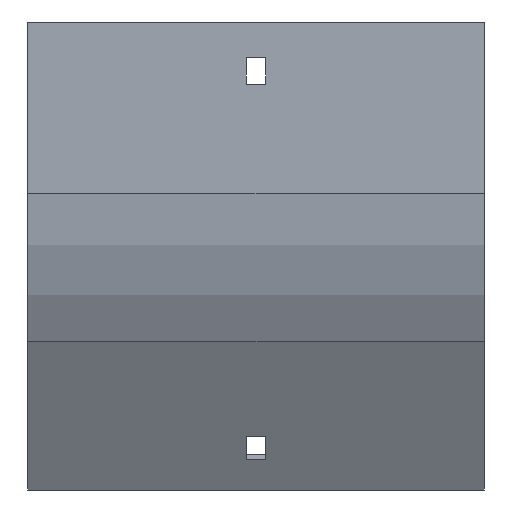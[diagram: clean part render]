
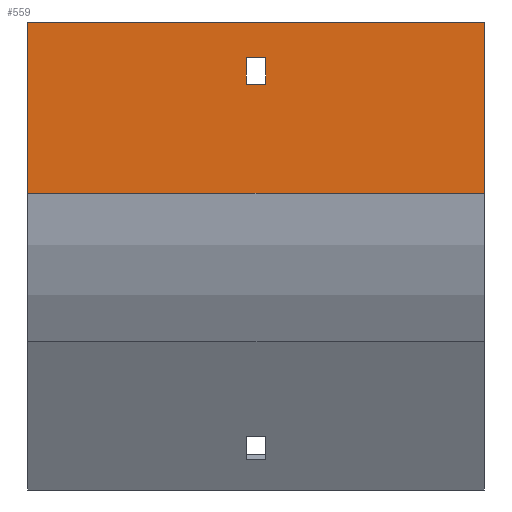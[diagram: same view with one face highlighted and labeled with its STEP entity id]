
A CAD part, front view. The second image highlights one B-rep face of the part: STEP entity #559.
In plain terms, the highlighted planar face has unit normal (0, -1, 0).
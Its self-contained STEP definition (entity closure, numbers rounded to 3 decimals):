
#3 = EDGE_LOOP ( 'NONE', ( #918, #1577, #1392, #1535 ) ) ;
#111 = VERTEX_POINT ( 'NONE', #968 ) ;
#135 = VERTEX_POINT ( 'NONE', #1739 ) ;
#150 = VECTOR ( 'NONE', #1410, 1000. ) ;
#162 = CARTESIAN_POINT ( 'NONE',  ( 77., -104., 0. ) ) ;
#226 = LINE ( 'NONE', #1437, #821 ) ;
#247 = CARTESIAN_POINT ( 'NONE',  ( 3.25, -104., -21. ) ) ;
#254 = CARTESIAN_POINT ( 'NONE',  ( -3.25, -104., -21. ) ) ;
#255 = DIRECTION ( 'NONE',  ( 0., 0., -1. ) ) ;
#281 = VERTEX_POINT ( 'NONE', #254 ) ;
#285 = CARTESIAN_POINT ( 'NONE',  ( 77., -104., 0. ) ) ;
#334 = VERTEX_POINT ( 'NONE', #247 ) ;
#344 = VECTOR ( 'NONE', #697, 1000. ) ;
#387 = AXIS2_PLACEMENT_3D ( 'NONE', #1730, #692, #1444 ) ;
#390 = LINE ( 'NONE', #1900, #150 ) ;
#450 = VERTEX_POINT ( 'NONE', #1061 ) ;
#559 = ADVANCED_FACE ( 'NONE', ( #1141, #831 ), #686, .F. ) ;
#569 = DIRECTION ( 'NONE',  ( -1., 0., 0. ) ) ;
#611 = VERTEX_POINT ( 'NONE', #162 ) ;
#641 = ORIENTED_EDGE ( 'NONE', *, *, #1299, .T. ) ;
#686 = PLANE ( 'NONE',  #387 ) ;
#692 = DIRECTION ( 'NONE',  ( 0., 1., 0. ) ) ;
#697 = DIRECTION ( 'NONE',  ( -1., 0., 0. ) ) ;
#724 = LINE ( 'NONE', #1760, #1338 ) ;
#777 = LINE ( 'NONE', #949, #1716 ) ;
#807 = CARTESIAN_POINT ( 'NONE',  ( 77., -104., -57.867 ) ) ;
#821 = VECTOR ( 'NONE', #1100, 1000. ) ;
#831 = FACE_OUTER_BOUND ( 'NONE', #881, .T. ) ;
#845 = ORIENTED_EDGE ( 'NONE', *, *, #1433, .F. ) ;
#850 = LINE ( 'NONE', #969, #344 ) ;
#881 = EDGE_LOOP ( 'NONE', ( #641, #1029, #845, #898 ) ) ;
#898 = ORIENTED_EDGE ( 'NONE', *, *, #970, .T. ) ;
#918 = ORIENTED_EDGE ( 'NONE', *, *, #1609, .T. ) ;
#949 = CARTESIAN_POINT ( 'NONE',  ( -3.25, -104., -21. ) ) ;
#968 = CARTESIAN_POINT ( 'NONE',  ( -77., -104., 0. ) ) ;
#969 = CARTESIAN_POINT ( 'NONE',  ( 77., -104., -57.867 ) ) ;
#970 = EDGE_CURVE ( 'NONE', #611, #111, #1785, .T. ) ;
#1029 = ORIENTED_EDGE ( 'NONE', *, *, #1306, .F. ) ;
#1061 = CARTESIAN_POINT ( 'NONE',  ( -77., -104., -57.867 ) ) ;
#1072 = DIRECTION ( 'NONE',  ( -1., 0., 0. ) ) ;
#1091 = LINE ( 'NONE', #1647, #1502 ) ;
#1100 = DIRECTION ( 'NONE',  ( 1., 0., 0. ) ) ;
#1117 = VECTOR ( 'NONE', #255, 1000. ) ;
#1141 = FACE_BOUND ( 'NONE', #3, .T. ) ;
#1161 = VERTEX_POINT ( 'NONE', #807 ) ;
#1249 = VERTEX_POINT ( 'NONE', #1296 ) ;
#1296 = CARTESIAN_POINT ( 'NONE',  ( 3.25, -104., -12. ) ) ;
#1299 = EDGE_CURVE ( 'NONE', #111, #450, #390, .T. ) ;
#1302 = LINE ( 'NONE', #1640, #1117 ) ;
#1306 = EDGE_CURVE ( 'NONE', #1161, #450, #850, .T. ) ;
#1332 = DIRECTION ( 'NONE',  ( 0., 0., -1. ) ) ;
#1338 = VECTOR ( 'NONE', #1332, 1000. ) ;
#1392 = ORIENTED_EDGE ( 'NONE', *, *, #1717, .T. ) ;
#1406 = VECTOR ( 'NONE', #569, 1000. ) ;
#1410 = DIRECTION ( 'NONE',  ( 0., 0., -1. ) ) ;
#1414 = EDGE_CURVE ( 'NONE', #1249, #334, #724, .T. ) ;
#1433 = EDGE_CURVE ( 'NONE', #611, #1161, #1302, .T. ) ;
#1437 = CARTESIAN_POINT ( 'NONE',  ( -3.25, -104., -12. ) ) ;
#1444 = DIRECTION ( 'NONE',  ( 0., 0., 1. ) ) ;
#1502 = VECTOR ( 'NONE', #1681, 1000. ) ;
#1535 = ORIENTED_EDGE ( 'NONE', *, *, #1414, .T. ) ;
#1553 = EDGE_CURVE ( 'NONE', #281, #135, #1091, .T. ) ;
#1577 = ORIENTED_EDGE ( 'NONE', *, *, #1553, .T. ) ;
#1609 = EDGE_CURVE ( 'NONE', #334, #281, #777, .T. ) ;
#1640 = CARTESIAN_POINT ( 'NONE',  ( 77., -104., -57.867 ) ) ;
#1647 = CARTESIAN_POINT ( 'NONE',  ( -3.25, -104., -21. ) ) ;
#1681 = DIRECTION ( 'NONE',  ( 0., 0., 1. ) ) ;
#1716 = VECTOR ( 'NONE', #1072, 1000. ) ;
#1717 = EDGE_CURVE ( 'NONE', #135, #1249, #226, .T. ) ;
#1730 = CARTESIAN_POINT ( 'NONE',  ( 77., -104., -57.867 ) ) ;
#1739 = CARTESIAN_POINT ( 'NONE',  ( -3.25, -104., -12. ) ) ;
#1760 = CARTESIAN_POINT ( 'NONE',  ( 3.25, -104., -21. ) ) ;
#1785 = LINE ( 'NONE', #285, #1406 ) ;
#1900 = CARTESIAN_POINT ( 'NONE',  ( -77., -104., -57.867 ) ) ;
